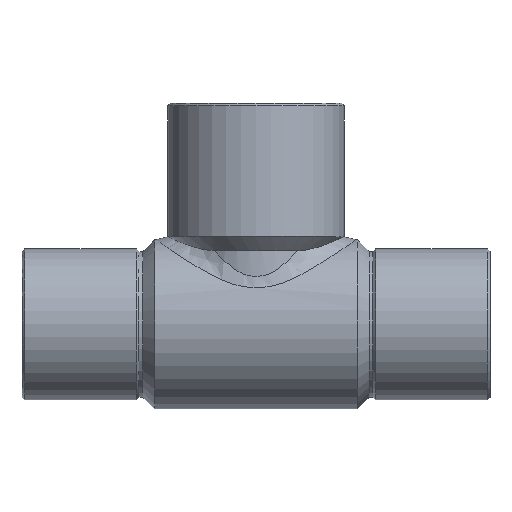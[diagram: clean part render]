
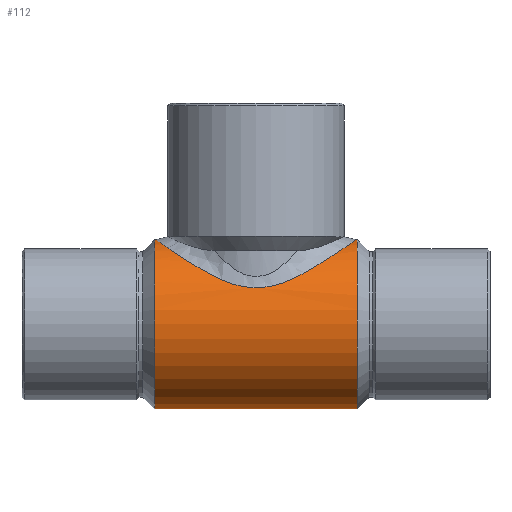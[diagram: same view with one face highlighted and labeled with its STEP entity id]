
A CAD part, top view. The second image highlights one B-rep face of the part: STEP entity #112.
In plain terms, the highlighted cylindrical face has radius 6.5 mm (diameter 13 mm), a partial arc.
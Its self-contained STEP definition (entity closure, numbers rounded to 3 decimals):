
#44=CARTESIAN_POINT('',(0.,0.,0.0));
#45=DIRECTION('',(1.0,0.,0.0));
#46=DIRECTION('',(0.0,1.0,0.0));
#47=AXIS2_PLACEMENT_3D('',#44,#45,#46);
#48=CYLINDRICAL_SURFACE('',#47,6.5);
#49=CARTESIAN_POINT('',(-7.8,6.5,0.));
#50=VERTEX_POINT('',#49);
#51=CARTESIAN_POINT('',(-7.7,6.5,0.));
#52=VERTEX_POINT('',#51);
#53=CARTESIAN_POINT('',(-7.8,6.5,0.));
#54=DIRECTION('',(1.0,0.0,0.0));
#55=VECTOR('',#54,0.1);
#56=LINE('',#53,#55);
#57=EDGE_CURVE('',#50,#52,#56,.T.);
#58=ORIENTED_EDGE('',*,*,#57,.F.);
#59=CARTESIAN_POINT('',(-7.8,-6.5,0.));
#60=VERTEX_POINT('',#59);
#61=CARTESIAN_POINT('',(-7.8,0.,0.0));
#62=DIRECTION('',(1.0,0.0,0.0));
#63=DIRECTION('',(0.0,1.0,0.0));
#64=AXIS2_PLACEMENT_3D('',#61,#62,#63);
#65=CIRCLE('',#64,6.5);
#66=EDGE_CURVE('',#50,#60,#65,.T.);
#67=ORIENTED_EDGE('',*,*,#66,.T.);
#68=CARTESIAN_POINT('',(7.8,-6.5,0.));
#69=VERTEX_POINT('',#68);
#70=CARTESIAN_POINT('',(7.8,-6.5,0.));
#71=DIRECTION('',(-1.0,0.0,0.0));
#72=VECTOR('',#71,15.6);
#73=LINE('',#70,#72);
#74=EDGE_CURVE('',#69,#60,#73,.T.);
#75=ORIENTED_EDGE('',*,*,#74,.F.);
#76=CARTESIAN_POINT('',(7.8,6.5,0.));
#77=VERTEX_POINT('',#76);
#78=CARTESIAN_POINT('',(7.8,0.,0.0));
#79=DIRECTION('',(-1.0,0.0,0.0));
#80=DIRECTION('',(0.0,1.0,0.0));
#81=AXIS2_PLACEMENT_3D('',#78,#79,#80);
#82=CIRCLE('',#81,6.5);
#83=EDGE_CURVE('',#69,#77,#82,.T.);
#84=ORIENTED_EDGE('',*,*,#83,.T.);
#85=CARTESIAN_POINT('',(7.7,6.5,0.));
#86=VERTEX_POINT('',#85);
#87=CARTESIAN_POINT('',(7.7,6.5,0.));
#88=DIRECTION('',(1.0,0.0,0.0));
#89=VECTOR('',#88,0.1);
#90=LINE('',#87,#89);
#91=EDGE_CURVE('',#86,#77,#90,.T.);
#92=ORIENTED_EDGE('',*,*,#91,.F.);
#93=CARTESIAN_POINT('',(-7.7,6.5,0.));
#94=CARTESIAN_POINT('',(-7.7,6.5,0.221));
#95=CARTESIAN_POINT('',(-7.683,6.488,0.448));
#96=CARTESIAN_POINT('',(-7.433,6.315,2.12));
#97=CARTESIAN_POINT('',(-6.518,5.671,3.38));
#98=CARTESIAN_POINT('',(-4.416,4.34,4.918));
#99=CARTESIAN_POINT('',(-3.365,3.676,5.39));
#100=CARTESIAN_POINT('',(-0.849,2.704,5.937));
#101=CARTESIAN_POINT('',(0.761,2.684,5.945));
#102=CARTESIAN_POINT('',(3.297,3.636,5.415));
#103=CARTESIAN_POINT('',(4.36,4.306,4.946));
#104=CARTESIAN_POINT('',(6.668,5.763,3.289));
#105=CARTESIAN_POINT('',(7.7,6.5,1.676));
#106=CARTESIAN_POINT('',(7.7,6.5,0.));
#107=B_SPLINE_CURVE_WITH_KNOTS('',3,(#93,#94,#95,#96,#97,#98,#99,#100,#101,#102,#103,#104,#105,#106),.UNSPECIFIED.,.F.,.U.,(4,2,2,2,2,2,4),(0.947,1.01,1.421,1.734,2.047,2.36,2.841),.UNSPECIFIED.);
#108=EDGE_CURVE('',#52,#86,#107,.T.);
#109=ORIENTED_EDGE('',*,*,#108,.F.);
#110=EDGE_LOOP('',(#58,#67,#75,#84,#92,#109));
#111=FACE_OUTER_BOUND('',#110,.T.);
#112=ADVANCED_FACE('',(#111),#48,.T.);
